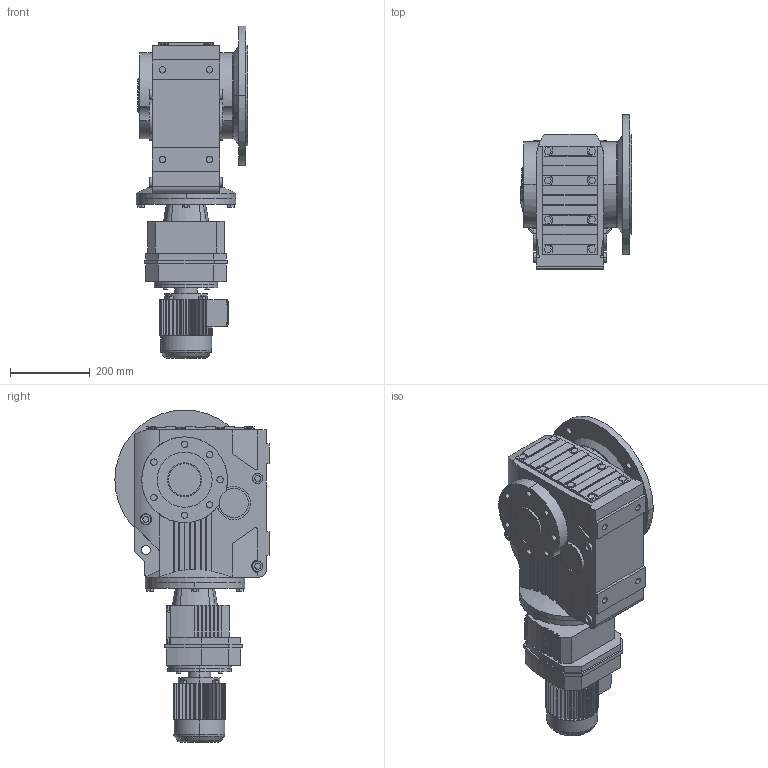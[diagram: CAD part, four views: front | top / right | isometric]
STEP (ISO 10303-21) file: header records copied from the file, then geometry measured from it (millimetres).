
FILE_DESCRIPTION(('Open CASCADE Model'),'2;1');
FILE_NAME('Open CASCADE Shape Model','2021-07-24T17:59:34',('Author'),( 'Open CASCADE'),'Open CASCADE STEP processor 6.3','Open CASCADE 6.3' ,'Unknown');
FILE_SCHEMA(('AUTOMOTIVE_DESIGN_CC2 { 1 2 10303 214 -1 1 5 4 }'));
Length unit declared in the file: millimetre
Products named in the file (6): 1_KAF87R57DR63-A; KA37‵107_87.step; 萇儂_160-DR63-185-240-132-105.step; R_87_57.step; す瑩諾陑粣K_87.step; 楊擘K_87.step
Assembly tree (5 placements, depth 2):
  1_KAF87R57DR63-A
    KA37‵107_87.step
    萇儂_160-DR63-185-240-132-105.step
    R_87_57.step
    す瑩諾陑粣K_87.step
    楊擘K_87.step
Bounding box: 280 x 387 x 833 mm (x, y, z)
Volume: 32029636.7 mm3; surface area: 1494454.4 mm2
Topology: 5 solids, 5 shells, 1106 faces, 2908 edges, 1903 vertices
Faces by surface type: plane 744, cylinder 342, cone 16, torus 4
Entity records: 81148 total; most frequent: CARTESIAN_POINT 26034, DIRECTION 9368, ORIENTED_EDGE 5816, PCURVE 5816, DEFINITIONAL_REPRESENTATION 5816, LINE 5161, VECTOR 5161, EDGE_CURVE 2908
